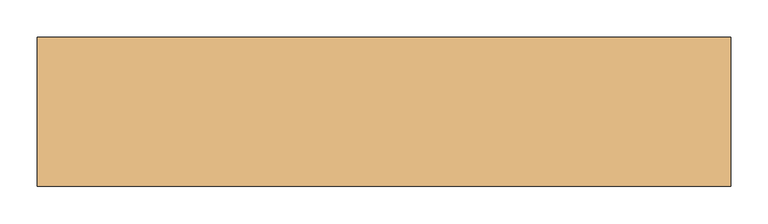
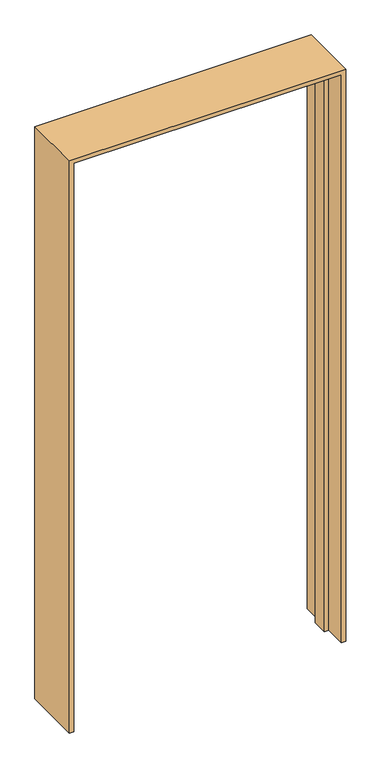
"""IFC4 building model written with IfcOpenShell, lengths in millimetres: door geometry, FREYS HUISSERIE A BANCHER : FREYS 93*2.035."""

from ifc_helpers import new_model, si_unit, origin, place, context, project, spatial, faceted_brep, source, transform, mapped, element, save


def door_067a82eb(model_context):
    return source(origin(), model_context, "Body", "Brep", [
        faceted_brep([(441.8113433, 100.0, 0.0), (456.8113433, 100.0, 0.0), (456.8113433, -100.0, 0.0), (441.8113433, -100.0, 0.0), (441.8113433, -26.2, 0.0), (426.8113433, -26.2, 0.0), (426.8113433, 26.2, 0.0), (441.8113433, 26.2, 0.0), (441.8113433, 100.0, 2020.0), (-458.1886567, 100.0, 2020.0), (-458.1886567, 100.0, 0.0), (-473.1886567, 100.0, 0.0), (-473.1886567, 100.0, 2035.0), (456.8113433, 100.0, 2035.0), (456.8113433, -100.0, 2035.0), (-473.1886567, -100.0, 2035.0), (-473.1886567, -100.0, 0.0), (-458.1886567, -100.0, 0.0), (-458.1886567, -100.0, 2020.0), (441.8113433, -100.0, 2020.0), (441.8113433, -26.2, 2020.0), (-458.1886567, -26.2, 2020.0), (-458.1886567, -26.2, 0.0), (-443.1886567, -26.2, 0.0), (-443.1886567, -26.2, 2005.0), (426.8113433, -26.2, 2005.0), (426.8113433, 26.2, 2005.0), (-443.1886567, 26.2, 2005.0), (-443.1886567, 26.2, 0.0), (-458.1886567, 26.2, 0.0), (-458.1886567, 26.2, 2020.0), (441.8113433, 26.2, 2020.0)], [[[0, 1, 2, 3, 4, 5, 6, 7]], [[1, 0, 8, 9, 10, 11, 12, 13]], [[2, 1, 13, 14]], [[3, 2, 14, 15, 16, 17, 18, 19]], [[4, 3, 19, 20]], [[5, 4, 20, 21, 22, 23, 24, 25]], [[6, 5, 25, 26]], [[7, 6, 26, 27, 28, 29, 30, 31]], [[0, 7, 31, 8]], [[9, 30, 29, 10]], [[10, 29, 28, 23, 22, 17, 16, 11]], [[15, 12, 11, 16]], [[21, 18, 17, 22]], [[27, 24, 23, 28]], [[14, 13, 12, 15]], [[26, 25, 24, 27]], [[20, 19, 18, 21]], [[8, 31, 30, 9]]]),
    ])


if __name__ == "__main__":
    model = new_model("IFC4")
    model_context = context("Model", 3, world=origin())
    ifc_project = project(units=[si_unit("LENGTHUNIT", "METRE", prefix="MILLI")], contexts=[model_context])
    site = spatial("IfcSite", under=ifc_project)
    building = spatial("IfcBuilding", under=site)
    placement = place(None, origin())
    door_shape = door_067a82eb(model_context)
    element("IfcDoor", 1, ObjectType="FREYS HUISSERIE A BANCHER : FREYS 93*2.035", at=placement, inside=building, context=model_context, shape_type="MappedRepresentation", body=[
        mapped(door_shape, transform((0.0, 0.0, 0.0), x_axis=(1.0, 0.0, 0.0), y_axis=(0.0, 1.0, 0.0), z_axis=(0.0, 0.0, 1.0))),
    ])
    save(model, "model.ifc")
